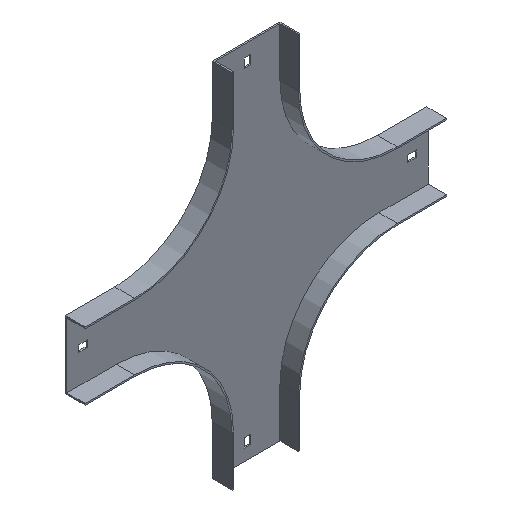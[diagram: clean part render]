
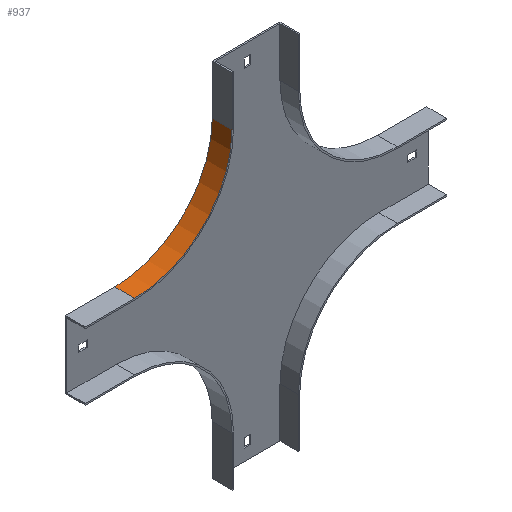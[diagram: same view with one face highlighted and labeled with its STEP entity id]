
A CAD part, isometric view. The second image highlights one B-rep face of the part: STEP entity #937.
In plain terms, the highlighted cylindrical face has radius 98.5 mm (diameter 197 mm), a partial arc.
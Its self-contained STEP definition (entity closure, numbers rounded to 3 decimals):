
#65 = CARTESIAN_POINT ( 'NONE',  ( -265.5, -20., 0. ) ) ;
#84 = AXIS2_PLACEMENT_3D ( 'NONE', #1336, #707, #1374 ) ;
#85 = CARTESIAN_POINT ( 'NONE',  ( -167., -20., 0. ) ) ;
#89 = CARTESIAN_POINT ( 'NONE',  ( -265.5, 0., -98.5 ) ) ;
#94 = ORIENTED_EDGE ( 'NONE', *, *, #1039, .T. ) ;
#117 = AXIS2_PLACEMENT_3D ( 'NONE', #174, #812, #1413 ) ;
#142 = EDGE_CURVE ( 'NONE', #905, #1038, #757, .T. ) ;
#174 = CARTESIAN_POINT ( 'NONE',  ( -265.5, 0., 0. ) ) ;
#184 = EDGE_CURVE ( 'NONE', #1038, #1325, #822, .T. ) ;
#235 = CARTESIAN_POINT ( 'NONE',  ( -167., -20., 0. ) ) ;
#328 = LINE ( 'NONE', #85, #1260 ) ;
#332 = DIRECTION ( 'NONE',  ( 0., 1., 0. ) ) ;
#700 = CARTESIAN_POINT ( 'NONE',  ( -265.5, -20., -98.5 ) ) ;
#707 = DIRECTION ( 'NONE',  ( 0., -1., 0. ) ) ;
#757 = LINE ( 'NONE', #1404, #1572 ) ;
#812 = DIRECTION ( 'NONE',  ( 0., -1., 0. ) ) ;
#820 = CIRCLE ( 'NONE', #84, 98.5 ) ;
#822 = CIRCLE ( 'NONE', #117, 98.5 ) ;
#905 = VERTEX_POINT ( 'NONE', #700 ) ;
#937 = ADVANCED_FACE ( 'NONE', ( #1218 ), #1630, .F. ) ;
#954 = ORIENTED_EDGE ( 'NONE', *, *, #142, .F. ) ;
#963 = DIRECTION ( 'NONE',  ( 0., 1., 0. ) ) ;
#1038 = VERTEX_POINT ( 'NONE', #89 ) ;
#1039 = EDGE_CURVE ( 'NONE', #905, #1071, #820, .T. ) ;
#1071 = VERTEX_POINT ( 'NONE', #235 ) ;
#1095 = DIRECTION ( 'NONE',  ( 0., 0., 1. ) ) ;
#1196 = CARTESIAN_POINT ( 'NONE',  ( -167., 0., 0. ) ) ;
#1218 = FACE_OUTER_BOUND ( 'NONE', #1228, .T. ) ;
#1228 = EDGE_LOOP ( 'NONE', ( #1271, #954, #94, #1455 ) ) ;
#1260 = VECTOR ( 'NONE', #963, 1000. ) ;
#1271 = ORIENTED_EDGE ( 'NONE', *, *, #184, .F. ) ;
#1325 = VERTEX_POINT ( 'NONE', #1196 ) ;
#1336 = CARTESIAN_POINT ( 'NONE',  ( -265.5, -20., 0. ) ) ;
#1341 = AXIS2_PLACEMENT_3D ( 'NONE', #65, #332, #1095 ) ;
#1374 = DIRECTION ( 'NONE',  ( 0., 0., 1. ) ) ;
#1378 = DIRECTION ( 'NONE',  ( 0., 1., 0. ) ) ;
#1404 = CARTESIAN_POINT ( 'NONE',  ( -265.5, -20., -98.5 ) ) ;
#1413 = DIRECTION ( 'NONE',  ( 0., 0., 1. ) ) ;
#1452 = EDGE_CURVE ( 'NONE', #1071, #1325, #328, .T. ) ;
#1455 = ORIENTED_EDGE ( 'NONE', *, *, #1452, .T. ) ;
#1572 = VECTOR ( 'NONE', #1378, 1000. ) ;
#1630 = CYLINDRICAL_SURFACE ( 'NONE', #1341, 98.5 ) ;
